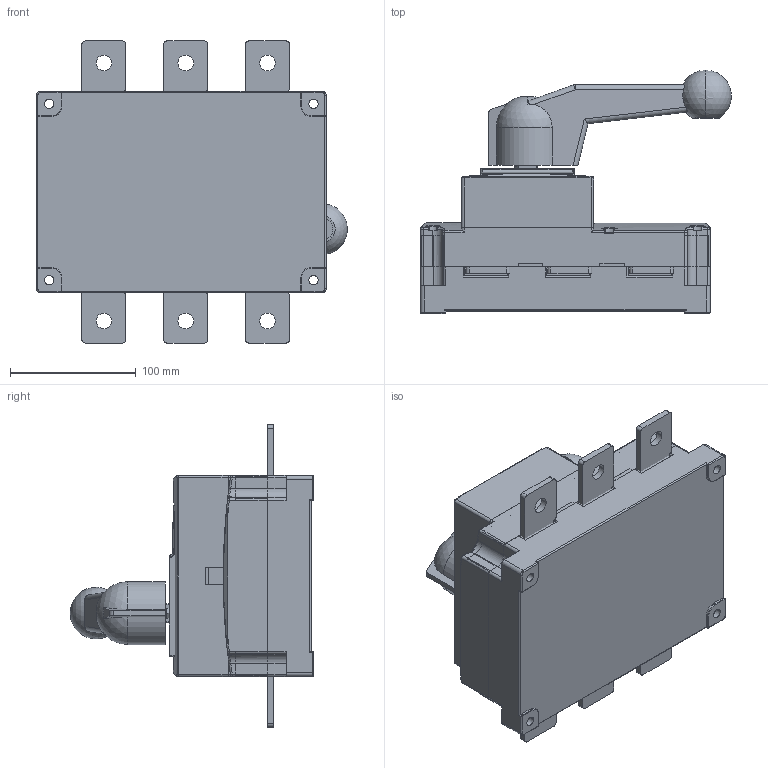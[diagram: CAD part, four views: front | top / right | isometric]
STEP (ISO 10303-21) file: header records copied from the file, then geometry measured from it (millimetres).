
FILE_DESCRIPTION((''),'2;1');
FILE_NAME('NH40-400-3_3P_202403_ASM','2024-04-16T',('zhuanghy'),(''),'CREO PARAMETRIC BY PTC INC, 2018070','CREO PARAMETRIC BY PTC INC, 2018070','');
FILE_SCHEMA(('AUTOMOTIVE_DESIGN { 1 0 10303 214 1 1 1 1 }'));
Length unit declared in the file: millimetre
Products named in the file (14): NH40-630BOCHA_97_1_1_1; ASM0004_ASM_3_ASM_ASM_1_1_ASM_3_ASM; NH40-315-3_ASM_ASM_1_1_ASM_1__2_ASM; NH40-315_630_202107__1_1_1; NH40-315-3_3P_201805_ASM_1_1__2_ASM; PRT0041_1_1; PRT0042_1_1; PRT0043_1_1; NH40-400JINGCHUTOU_64_1_1; ASM0010_ASM_1_ASM_1_ASM; NH40-400-3_ASM_1_ASM_1_ASM; ASM0002_ASM_1_ASM; ASM0001_ASM_1_ASM; NH40-400-3_3P_202403_ASM
Assembly tree (18 placements, depth 6):
  NH40-400-3_3P_202403_ASM
    ASM0001_ASM_1_ASM
      NH40-315-3_3P_201805_ASM_1_1__2_ASM
        NH40-315-3_ASM_ASM_1_1_ASM_1__2_ASM
          ASM0004_ASM_3_ASM_ASM_1_1_ASM_3_ASM
            NH40-630BOCHA_97_1_1_1
        NH40-315_630_202107__1_1_1
      ASM0002_ASM_1_ASM
        NH40-400-3_ASM_1_ASM_1_ASM
          ASM0010_ASM_1_ASM_1_ASM
            PRT0041_1_1
            PRT0042_1_1
            PRT0043_1_1
            NH40-400JINGCHUTOU_64_1_1  x6
Bounding box: 246.93 x 193.5 x 240 mm (x, y, z)
Volume: 3810976.7 mm3; surface area: 416573.4 mm2
Topology: 11 solids, 11 shells, 909 faces, 2384 edges, 1503 vertices
Faces by surface type: plane 372, cylinder 363, bspline 83, torus 73, sphere 16, cone 2
Entity records: 31998 total; most frequent: CARTESIAN_POINT 12108, ORIENTED_EDGE 4146, DIRECTION 3946, EDGE_CURVE 2073, AXIS2_PLACEMENT_3D 1437, VERTEX_POINT 1303, VECTOR 1072, LINE 1072
